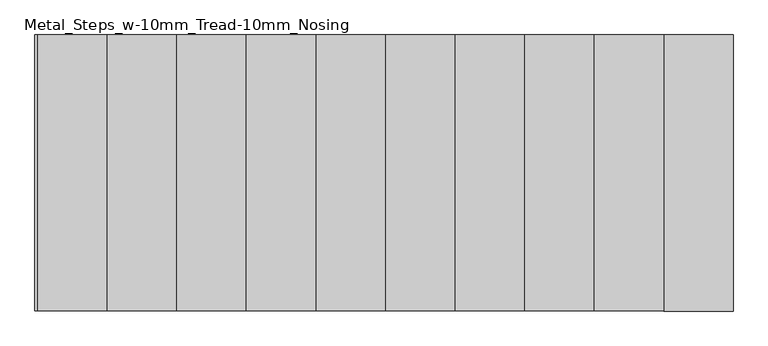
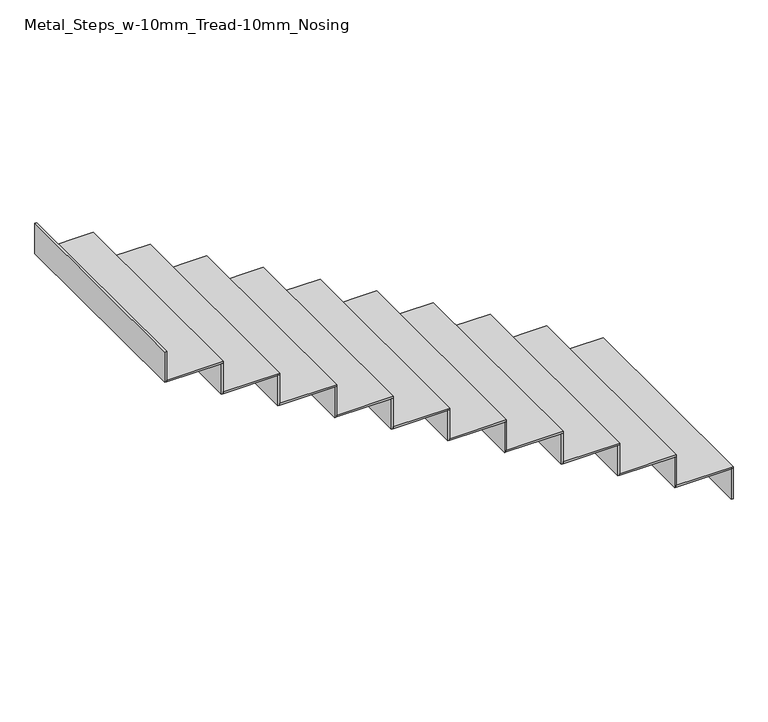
"""IFC4 building model written with IfcOpenShell, lengths in millimetres: stair flight geometry, Metal_Steps_w-10mm_Tread-10mm_Nosing."""

from ifc_helpers import new_model, si_unit, frame, origin, place, context, project, spatial, polyline, outline, extrude, source, transform, mapped, element, save


def metal_steps_w_10mm_tread_10mm_nosing_577c989f(model_context):
    return source(origin(), model_context, "Body", "SweptSolid", [
        extrude(outline(polyline([(2188.5041438, -2084.8316761), (2198.5041438, -2084.8316761), (2198.5041438, -3274.8316761), (2188.5041438, -3274.8316761), (2188.5041438, -2084.8316761)])), frame((0.0, 0.0, 16875.0), z_axis=(0.0, 0.0, 1.0), x_axis=(1.0, 0.0, 0.0)), (0.0, 0.0, 1.0), 170.4545455),
        extrude(outline(polyline([(1898.5041438, -3274.8316761), (1898.5041438, -2084.8316761), (2198.5041438, -2084.8316761), (2198.5041438, -3274.8316761), (1898.5041438, -3274.8316761)])), frame((0.0, 0.0, 17045.4545455), z_axis=(0.0, 0.0, 1.0), x_axis=(1.0, 0.0, 0.0)), (0.0, 0.0, 1.0), 10.0),
        extrude(outline(polyline([(1888.5041438, -2084.8316761), (1898.5041438, -2084.8316761), (1898.5041438, -3274.8316761), (1888.5041438, -3274.8316761), (1888.5041438, -2084.8316761)])), frame((0.0, 0.0, 17045.4545455), z_axis=(0.0, 0.0, 1.0), x_axis=(1.0, 0.0, 0.0)), (0.0, 0.0, 1.0), 170.4545455),
        extrude(outline(polyline([(1598.5041438, -3274.8316761), (1598.5041438, -2084.8316761), (1898.5041438, -2084.8316761), (1898.5041438, -3274.8316761), (1598.5041438, -3274.8316761)])), frame((0.0, 0.0, 17215.9090909), z_axis=(0.0, 0.0, 1.0), x_axis=(1.0, 0.0, 0.0)), (0.0, 0.0, 1.0), 10.0),
        extrude(outline(polyline([(1588.5041438, -2084.8316761), (1598.5041438, -2084.8316761), (1598.5041438, -3274.8316761), (1588.5041438, -3274.8316761), (1588.5041438, -2084.8316761)])), frame((0.0, 0.0, 17215.9090909), z_axis=(0.0, 0.0, 1.0), x_axis=(1.0, 0.0, 0.0)), (0.0, 0.0, 1.0), 170.4545455),
        extrude(outline(polyline([(1298.5041438, -3274.8316761), (1298.5041438, -2084.8316761), (1598.5041438, -2084.8316761), (1598.5041438, -3274.8316761), (1298.5041438, -3274.8316761)])), frame((0.0, 0.0, 17386.3636364), z_axis=(0.0, 0.0, 1.0), x_axis=(1.0, 0.0, 0.0)), (0.0, 0.0, 1.0), 10.0),
        extrude(outline(polyline([(1288.5041438, -2084.8316761), (1298.5041438, -2084.8316761), (1298.5041438, -3274.8316761), (1288.5041438, -3274.8316761), (1288.5041438, -2084.8316761)])), frame((0.0, 0.0, 17386.3636364), z_axis=(0.0, 0.0, 1.0), x_axis=(1.0, 0.0, 0.0)), (0.0, 0.0, 1.0), 170.4545455),
        extrude(outline(polyline([(998.5041438, -3274.8316761), (998.5041438, -2084.8316761), (1298.5041438, -2084.8316761), (1298.5041438, -3274.8316761), (998.5041438, -3274.8316761)])), frame((0.0, 0.0, 17556.8181818), z_axis=(0.0, 0.0, 1.0), x_axis=(1.0, 0.0, 0.0)), (0.0, 0.0, 1.0), 10.0),
        extrude(outline(polyline([(988.5041438, -2084.8316761), (998.5041438, -2084.8316761), (998.5041438, -3274.8316761), (988.5041438, -3274.8316761), (988.5041438, -2084.8316761)])), frame((0.0, 0.0, 17556.8181818), z_axis=(0.0, 0.0, 1.0), x_axis=(1.0, 0.0, 0.0)), (0.0, 0.0, 1.0), 170.4545455),
        extrude(outline(polyline([(698.5041438, -3274.8316761), (698.5041438, -2084.8316761), (998.5041438, -2084.8316761), (998.5041438, -3274.8316761), (698.5041438, -3274.8316761)])), frame((0.0, 0.0, 17727.2727273), z_axis=(0.0, 0.0, 1.0), x_axis=(1.0, 0.0, 0.0)), (0.0, 0.0, 1.0), 10.0),
        extrude(outline(polyline([(688.5041438, -2084.8316761), (698.5041438, -2084.8316761), (698.5041438, -3274.8316761), (688.5041438, -3274.8316761), (688.5041438, -2084.8316761)])), frame((0.0, 0.0, 17727.2727273), z_axis=(0.0, 0.0, 1.0), x_axis=(1.0, 0.0, 0.0)), (0.0, 0.0, 1.0), 170.4545455),
        extrude(outline(polyline([(398.5041438, -3274.8316761), (398.5041438, -2084.8316761), (698.5041438, -2084.8316761), (698.5041438, -3274.8316761), (398.5041438, -3274.8316761)])), frame((0.0, 0.0, 17897.7272727), z_axis=(0.0, 0.0, 1.0), x_axis=(1.0, 0.0, 0.0)), (0.0, 0.0, 1.0), 10.0),
        extrude(outline(polyline([(388.5041438, -2084.8316761), (398.5041438, -2084.8316761), (398.5041438, -3274.8316761), (388.5041438, -3274.8316761), (388.5041438, -2084.8316761)])), frame((0.0, 0.0, 17897.7272727), z_axis=(0.0, 0.0, 1.0), x_axis=(1.0, 0.0, 0.0)), (0.0, 0.0, 1.0), 170.4545455),
        extrude(outline(polyline([(98.5041438, -3274.8316761), (98.5041438, -2084.8316761), (398.5041438, -2084.8316761), (398.5041438, -3274.8316761), (98.5041438, -3274.8316761)])), frame((0.0, 0.0, 18068.1818182), z_axis=(0.0, 0.0, 1.0), x_axis=(1.0, 0.0, 0.0)), (0.0, 0.0, 1.0), 10.0),
        extrude(outline(polyline([(88.5041438, -2084.8316761), (98.5041438, -2084.8316761), (98.5041438, -3274.8316761), (88.5041438, -3274.8316761), (88.5041438, -2084.8316761)])), frame((0.0, 0.0, 18068.1818182), z_axis=(0.0, 0.0, 1.0), x_axis=(1.0, 0.0, 0.0)), (0.0, 0.0, 1.0), 170.4545455),
        extrude(outline(polyline([(-201.4958562, -3274.8316761), (-201.4958562, -2084.8316761), (98.5041438, -2084.8316761), (98.5041438, -3274.8316761), (-201.4958562, -3274.8316761)])), frame((0.0, 0.0, 18238.6363636), z_axis=(0.0, 0.0, 1.0), x_axis=(1.0, 0.0, 0.0)), (0.0, 0.0, 1.0), 10.0),
        extrude(outline(polyline([(-211.4958562, -2084.8316761), (-201.4958562, -2084.8316761), (-201.4958562, -3274.8316761), (-211.4958562, -3274.8316761), (-211.4958562, -2084.8316761)])), frame((0.0, 0.0, 18238.6363636), z_axis=(0.0, 0.0, 1.0), x_axis=(1.0, 0.0, 0.0)), (0.0, 0.0, 1.0), 170.4545455),
        extrude(outline(polyline([(-501.4958562, -3274.8316761), (-501.4958562, -2084.8316761), (-201.4958562, -2084.8316761), (-201.4958562, -3274.8316761), (-501.4958562, -3274.8316761)])), frame((0.0, 0.0, 18409.0909091), z_axis=(0.0, 0.0, 1.0), x_axis=(1.0, 0.0, 0.0)), (0.0, 0.0, 1.0), 10.0),
        extrude(outline(polyline([(-511.4958562, -2084.8316761), (-501.4958562, -2084.8316761), (-501.4958562, -3274.8316761), (-511.4958562, -3274.8316761), (-511.4958562, -2084.8316761)])), frame((0.0, 0.0, 18409.0909091), z_axis=(0.0, 0.0, 1.0), x_axis=(1.0, 0.0, 0.0)), (0.0, 0.0, 1.0), 170.4545455),
        extrude(outline(polyline([(-811.4958562, -2084.8316761), (-801.4958562, -2084.8316761), (-801.4958562, -3274.8316761), (-811.4958562, -3274.8316761), (-811.4958562, -2084.8316761)])), frame((0.0, 0.0, 18579.5454545), z_axis=(0.0, 0.0, 1.0), x_axis=(1.0, 0.0, 0.0)), (0.0, 0.0, 1.0), 170.4545455),
        extrude(outline(polyline([(-801.4958562, -3274.8316761), (-801.4958562, -2084.8316761), (-501.4958562, -2084.8316761), (-501.4958562, -3274.8316761), (-801.4958562, -3274.8316761)])), frame((0.0, 0.0, 18579.5454545), z_axis=(0.0, 0.0, 1.0), x_axis=(1.0, 0.0, 0.0)), (0.0, 0.0, 1.0), 10.0),
    ])


if __name__ == "__main__":
    model = new_model("IFC4")
    model_context = context("Model", 3, world=origin())
    ifc_project = project(units=[si_unit("LENGTHUNIT", "METRE", prefix="MILLI")], contexts=[model_context])
    site = spatial("IfcSite", under=ifc_project)
    building = spatial("IfcBuilding", under=site)
    placement = place(None, origin())
    metal_steps_w_10mm_tread_10mm_nosing_shape = metal_steps_w_10mm_tread_10mm_nosing_577c989f(model_context)
    element("IfcStairFlight", 1, ObjectType="Metal_Steps_w-10mm_Tread-10mm_Nosing", at=placement, inside=building, context=model_context, shape_type="MappedRepresentation", body=[
        mapped(metal_steps_w_10mm_tread_10mm_nosing_shape, transform((0.0, 0.0, 0.0), x_axis=(1.0, 0.0, 0.0), y_axis=(0.0, 1.0, 0.0), z_axis=(0.0, 0.0, 1.0))),
    ])
    save(model, "model.ifc")
